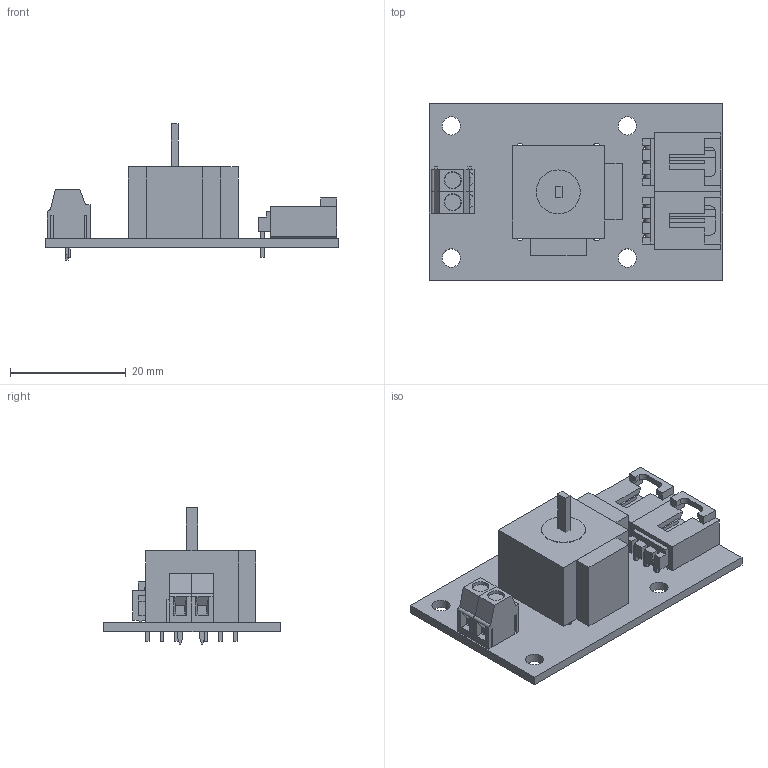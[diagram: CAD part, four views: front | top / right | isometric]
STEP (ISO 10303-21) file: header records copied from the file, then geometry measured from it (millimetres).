
FILE_DESCRIPTION(('Open CASCADE Model'),'2;1');
FILE_NAME('Open CASCADE Shape Model','2010-10-28T08:58:57',('Author'),( 'Open CASCADE'),'Open CASCADE STEP processor 6.2','Open CASCADE 6.2' ,'Unknown');
FILE_SCHEMA(('AUTOMOTIVE_DESIGN { 1 0 10303 214 1 1 1 1 }'));
Length unit declared in the file: millimetre
Products named in the file (24): PCB; Board; J3; 705530002; Open CASCADE STEP translator 6.2 22.2.1.1; Open CASCADE STEP translator 6.2 22.2.1.2; J2; R1; 478806592; Extruded; 828468672; Cylinder; 478805568; 478806336; 478805440; J1; 20020327-d02_asm; 20020327-D-LEM; 20020327-D-REM; 828468224
Assembly tree (25 placements, depth 4):
  PCB
    Board
    J3
      705530002
        Open CASCADE STEP translator 6.2 22.2.1.1
        Open CASCADE STEP translator 6.2 22.2.1.2
    J2
      705530002
        Open CASCADE STEP translator 6.2 22.2.1.1
        Open CASCADE STEP translator 6.2 22.2.1.2
    R1
      478806592
        Extruded
      828468672
        Cylinder
      478805568
        Extruded
      478806336
        Extruded
      478805440
        Extruded
    J1
      20020327-d02_asm
        20020327-D-LEM
        20020327-D-REM  x2
      828468224
        Cylinder
Bounding box: 50.8 x 30.48 x 23.59 mm (x, y, z)
Volume: 7519.9 mm3; surface area: 7997.1 mm2
Topology: 15 solids, 15 shells, 524 faces, 1386 edges, 916 vertices
Faces by surface type: plane 442, cylinder 78, cone 4
Full cylindrical faces by diameter (mm): 0.6 x1, 0.965 x6, 1.067 x10, 1.321 x6, 3.175 x4, 7.62 x1
Entity records: 19705 total; most frequent: CARTESIAN_POINT 3586, DIRECTION 2930, LINE 1965, VECTOR 1965, ORIENTED_EDGE 1536, PCURVE 1536, DEFINITIONAL_REPRESENTATION 1536, EDGE_CURVE 768
